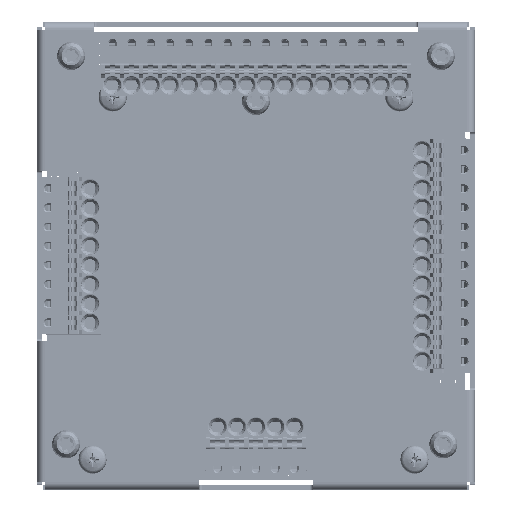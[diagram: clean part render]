
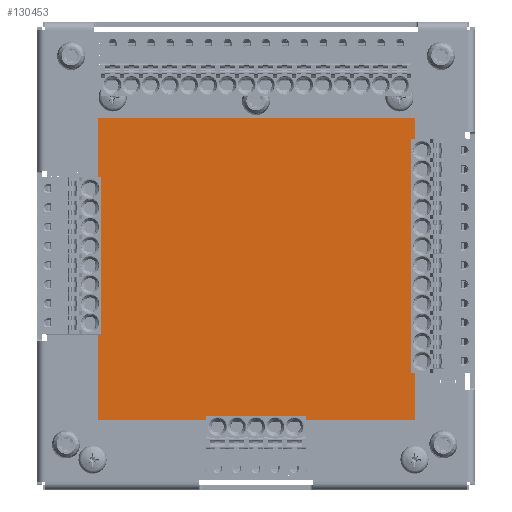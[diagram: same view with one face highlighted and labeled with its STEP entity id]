
A CAD part, top view. The second image highlights one B-rep face of the part: STEP entity #130453.
In plain terms, the highlighted planar face has unit normal (0, 0, 1).
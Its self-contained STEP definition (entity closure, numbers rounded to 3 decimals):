
#8044=PLANE('',#140916);
#14924=FACE_OUTER_BOUND('',#23506,.T.);
#23506=EDGE_LOOP('',(#114832,#114833,#114834,#114835));
#36090=LINE('',#234875,#48659);
#36091=LINE('',#234877,#48660);
#36092=LINE('',#234879,#48661);
#36093=LINE('',#234880,#48662);
#48659=VECTOR('',#174308,10.);
#48660=VECTOR('',#174309,10.);
#48661=VECTOR('',#174310,10.);
#48662=VECTOR('',#174311,10.);
#63473=VERTEX_POINT('',#234873);
#63474=VERTEX_POINT('',#234874);
#63475=VERTEX_POINT('',#234876);
#63476=VERTEX_POINT('',#234878);
#80610=EDGE_CURVE('',#63473,#63474,#36090,.T.);
#80611=EDGE_CURVE('',#63474,#63475,#36091,.T.);
#80612=EDGE_CURVE('',#63475,#63476,#36092,.T.);
#80613=EDGE_CURVE('',#63476,#63473,#36093,.T.);
#114832=ORIENTED_EDGE('',*,*,#80610,.T.);
#114833=ORIENTED_EDGE('',*,*,#80611,.T.);
#114834=ORIENTED_EDGE('',*,*,#80612,.T.);
#114835=ORIENTED_EDGE('',*,*,#80613,.T.);
#130453=ADVANCED_FACE('',(#14924),#8044,.T.);
#140916=AXIS2_PLACEMENT_3D('',#234872,#174306,#174307);
#174306=DIRECTION('center_axis',(0.,0.,
1.));
#174307=DIRECTION('ref_axis',(0.,1.,0.));
#174308=DIRECTION('',(0.,1.,0.));
#174309=DIRECTION('',(-1.,0.,0.));
#174310=DIRECTION('',(0.,-1.,0.));
#174311=DIRECTION('',(1.,0.,0.));
#234872=CARTESIAN_POINT('Origin',(-33.043,22.317,7.9));
#234873=CARTESIAN_POINT('',(-1.543,-7.683,7.9));
#234874=CARTESIAN_POINT('',(-1.543,52.317,7.9));
#234875=CARTESIAN_POINT('',(-1.543,-7.683,7.9));
#234876=CARTESIAN_POINT('',(-64.543,52.317,7.9));
#234877=CARTESIAN_POINT('',(-1.543,52.317,7.9));
#234878=CARTESIAN_POINT('',(-64.543,-7.683,7.9));
#234879=CARTESIAN_POINT('',(-64.543,52.317,7.9));
#234880=CARTESIAN_POINT('',(-64.543,-7.683,7.9));
